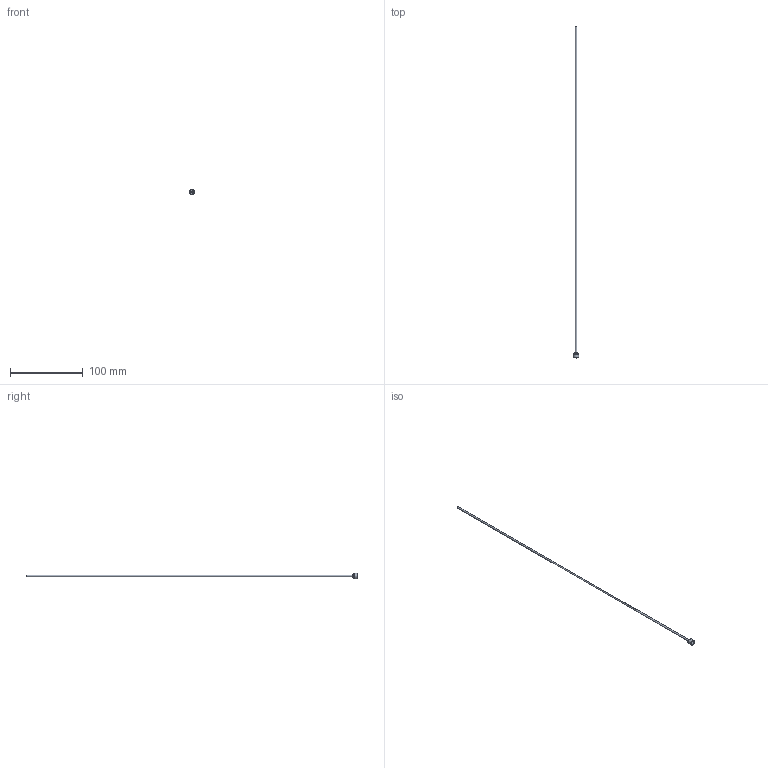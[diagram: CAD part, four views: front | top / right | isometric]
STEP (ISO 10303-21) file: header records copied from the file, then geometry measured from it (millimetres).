
FILE_DESCRIPTION(/* description */ (''),/* implementation_level */ '2;1');
FILE_NAME(/* name */ 'C:/Users/drich/Desktop/PT16-093-18 v2.step',/* time_stamp */ '2019-12-27T15:15:36-06:00',/* author */ (''),/* organization */ (''),/* preprocessor_version */ 'ST-DEVELOPER v18',/* originating_system */ 'Autodesk Translation Framework v8.12.0.6',/* authorisation */ '');
FILE_SCHEMA (('AUTOMOTIVE_DESIGN { 1 0 10303 214 3 1 1 }'));
Length unit declared in the file: inch
Products named in the file (1): PT16-093-18
Bounding box: 7.62 x 457.2 x 7.62 mm (x, y, z)
Volume: 763.1 mm3; surface area: 6264.3 mm2
Topology: 1 solids, 1 shells, 19 faces, 48 edges, 34 vertices
Faces by surface type: plane 11, cylinder 4, torus 2, cone 2
Full cylindrical faces by diameter (mm): 1.93 x1, 2.286 x1, 4.724 x1, 7.616 x1
Entity records: 633 total; most frequent: DIRECTION 112, CARTESIAN_POINT 102, ORIENTED_EDGE 96, EDGE_CURVE 48, AXIS2_PLACEMENT_3D 44, VERTEX_POINT 34, CIRCLE 24, EDGE_LOOP 24
